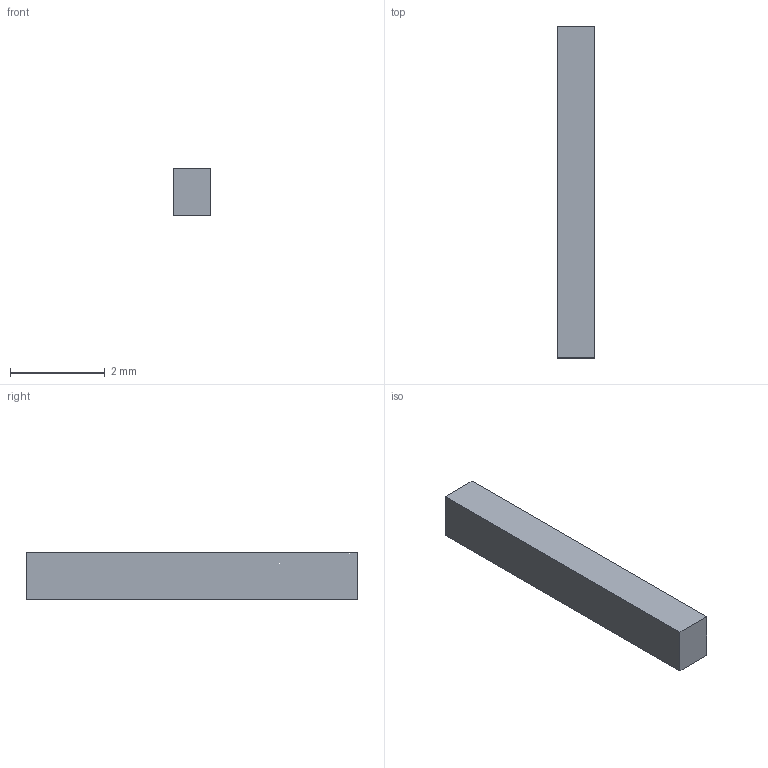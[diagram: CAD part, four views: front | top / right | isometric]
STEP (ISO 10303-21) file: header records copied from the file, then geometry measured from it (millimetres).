
FILE_DESCRIPTION(('Open CASCADE Model'),'2;1');
FILE_NAME('C27_UC1_PCB_Rear_Preload_2_FREE_STATE','2026-09-09T20:28:31', ('Author'),('Open CASCADE'),'Open CASCADE STEP processor 7.9', 'build123d','Unknown');
FILE_SCHEMA(('AUTOMOTIVE_DESIGN { 1 0 10303 214 1 1 1 1 }'));
Length unit declared in the file: millimetre
Products named in the file (1): C27_UC1_PCB_Rear_Preload_2_FREE_STATE
Bounding box: 0.8 x 7 x 1 mm (x, y, z)
Volume: 5.6 mm3; surface area: 26.8 mm2
Topology: 1 solids, 1 shells, 6 faces, 12 edges, 8 vertices
Faces by surface type: plane 6
Entity records: 322 total; most frequent: CARTESIAN_POINT 51, DIRECTION 50, LINE 36, VECTOR 36, ORIENTED_EDGE 24, PCURVE 24, DEFINITIONAL_REPRESENTATION 24, EDGE_CURVE 12
